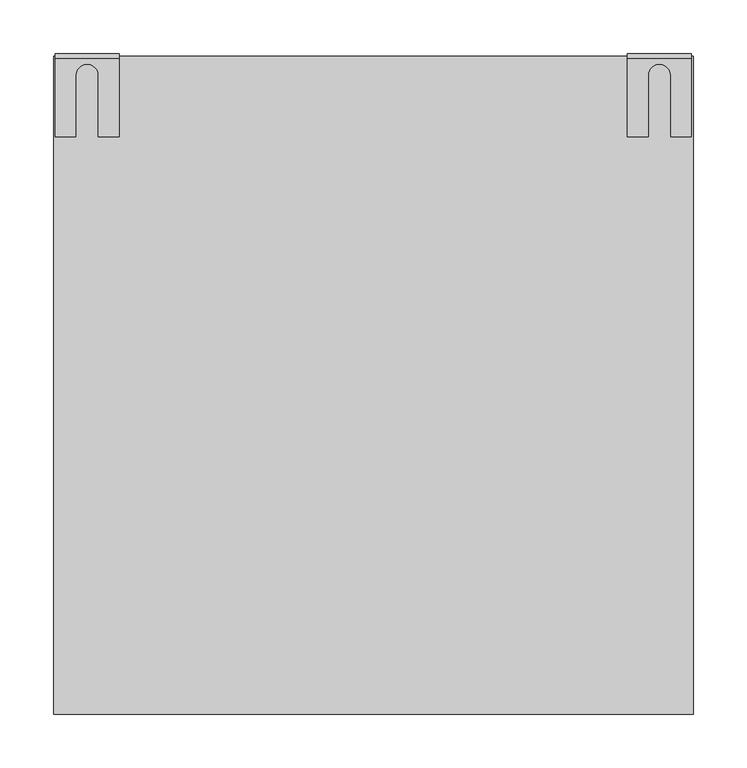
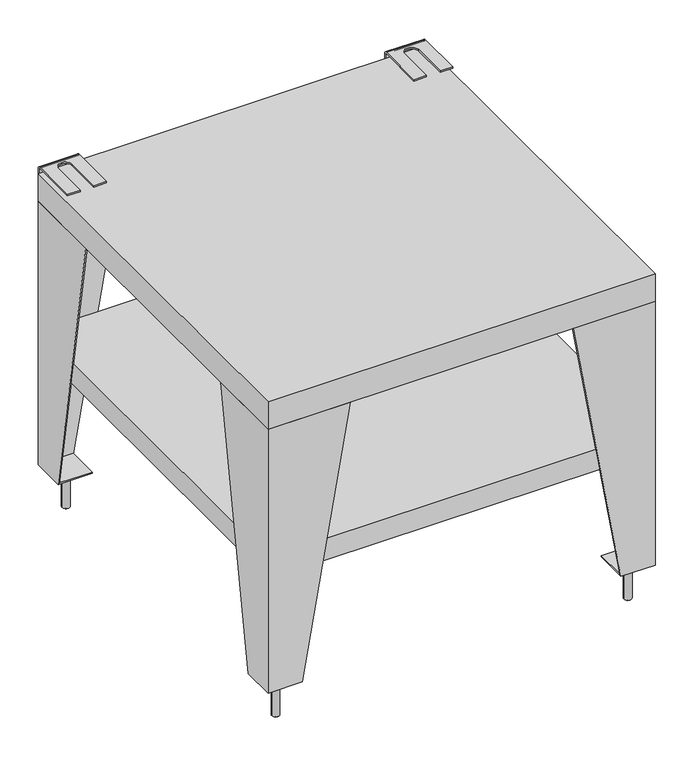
"""IFC4 building model written with IfcOpenShell, lengths in millimetres: proxy geometry, 11318820_D_APCL007_OB : 59590012_D_11318820_APCL007_OB."""

import ifcopenshell
import ifcopenshell.guid

model = None  # the IFC model being written
_history = None  # IfcOwnerHistory: only IFC2X3 demands one
_inside = {}  # id of a spatial element -> (the spatial element, [elements in it])
_under = {}  # id of a project, library or spatial element -> (it, [spatial elements below it])
_declared = {}  # id of a project -> (the project, [libraries it declares])
_typed = {}  # id of a type object -> (the type object, [elements of that type])
_made_of = {}  # id of a material, layer set ... -> (it, [elements and type objects made of it])


def new_model(schema):
    """Start an empty IFC model of exactly this schema.

    Asked for "IFC4X3", IfcOpenShell would pick the latest addendum, in which some entities
    have other attributes; the version numbers below select the first issue.
    IFC2X3 requires an IfcOwnerHistory on every rooted entity: one is made here for all.
    """
    global model, _history
    if schema == "IFC4X3":
        model = ifcopenshell.file(schema_version=(4, 3, 0, 0))
    else:
        model = ifcopenshell.file(schema=schema)
    _inside.clear()
    _under.clear()
    _declared.clear()
    _typed.clear()
    _made_of.clear()
    _history = None
    if model.schema == "IFC2X3":
        org = make("IfcOrganization", Name="unknown")
        user = make(
            "IfcPersonAndOrganization",
            ThePerson=make("IfcPerson", FamilyName="unknown"),
            TheOrganization=org,
        )
        app = make(
            "IfcApplication",
            ApplicationDeveloper=org,
            Version="unknown",
            ApplicationFullName="unknown",
            ApplicationIdentifier="unknown",
        )
        _history = make(
            "IfcOwnerHistory",
            OwningUser=user,
            OwningApplication=app,
            ChangeAction="ADDED",
            CreationDate=0,
        )
    return model


def make(cls, **values):
    """One entity of the class cls with the attributes given. An attribute that is None is left unset."""
    return model.create_entity(
        cls, **{name: value for name, value in values.items() if value is not None}
    )


def rooted(cls, **values):
    """An entity with a GlobalId (a new one), such as an element, a storey or a relation."""
    return make(cls, GlobalId=ifcopenshell.guid.new(), OwnerHistory=_history, **values)


def si_unit(unit_type, name, prefix=None):
    """IfcSIUnit, for example si_unit("LENGTHUNIT", "METRE", prefix="MILLI")."""
    return make("IfcSIUnit", UnitType=unit_type, Prefix=prefix, Name=name)


def assignment(units):
    """IfcUnitAssignment: the units of a project."""
    return None if units is None else make("IfcUnitAssignment", Units=units)


def point(xyz):
    """IfcCartesianPoint."""
    return None if xyz is None else make("IfcCartesianPoint", Coordinates=xyz)


def direction(xyz):
    """IfcDirection."""
    return None if xyz is None else make("IfcDirection", DirectionRatios=xyz)


def frame(location, z_axis=None, x_axis=None):
    """IfcAxis2Placement3D, a coordinate frame: its origin and axes. An axis left out is left unset."""
    return make(
        "IfcAxis2Placement3D",
        Location=point(location),
        Axis=direction(z_axis),
        RefDirection=direction(x_axis),
    )


def frame_2d(location, x_axis=None):
    """IfcAxis2Placement2D, a coordinate frame in the plane: its origin and x axis."""
    return make(
        "IfcAxis2Placement2D", Location=point(location), RefDirection=direction(x_axis)
    )


def origin():
    """The frame at (0, 0, 0) with its axes left unset."""
    return frame((0.0, 0.0, 0.0))


def origin_with_axes():
    """The frame at (0, 0, 0) with the z axis (0, 0, 1) and the x axis (1, 0, 0) written out."""
    return frame((0.0, 0.0, 0.0), z_axis=(0.0, 0.0, 1.0), x_axis=(1.0, 0.0, 0.0))


def place(relative_to, where):
    """IfcLocalPlacement: puts the frame where relative to a parent placement (None: the world)."""
    return make(
        "IfcLocalPlacement", PlacementRelTo=relative_to, RelativePlacement=where
    )


def context(
    kind, dimensions, precision=None, world=None, true_north=None, identifier=None
):
    """IfcGeometricRepresentationContext, for example the 3D "Model" context."""
    return make(
        "IfcGeometricRepresentationContext",
        ContextIdentifier=identifier,
        ContextType=kind,
        CoordinateSpaceDimension=dimensions,
        Precision=precision,
        WorldCoordinateSystem=world,
        TrueNorth=true_north,
    )


def project(units=None, contexts=None):
    """IfcProject with its units and contexts."""
    return rooted(
        "IfcProject",
        Name="project",
        RepresentationContexts=contexts,
        UnitsInContext=assignment(units),
    )


def spatial(cls, under=None, at=None, **own):
    """A site, building, storey or space (cls), placed at a placement, below another one or the project."""
    s = rooted(cls, ObjectPlacement=at, **own)
    if under is not None:
        _under.setdefault(under.id(), (under, []))[1].append(s)
    return s


def polyline(points):
    """IfcPolyline through the points."""
    return make("IfcPolyline", Points=[point(p) for p in points])


def circle_curve(where, radius):
    """IfcCircle in the frame where."""
    return make("IfcCircle", Position=where, Radius=radius)


def trimmed(basis, trim1, trim2, sense, master):
    """IfcTrimmedCurve: the piece of a basis curve between two trims."""
    return make(
        "IfcTrimmedCurve",
        BasisCurve=basis,
        Trim1=trim1,
        Trim2=trim2,
        SenseAgreement=sense,
        MasterRepresentation=master,
    )


def segment(curve, same_sense, transition):
    """IfcCompositeCurveSegment."""
    return make(
        "IfcCompositeCurveSegment",
        Transition=transition,
        SameSense=same_sense,
        ParentCurve=curve,
    )


def composite_curve(segments, self_intersect=None):
    """IfcCompositeCurve: segments joined end to end."""
    return make("IfcCompositeCurve", Segments=segments, SelfIntersect=self_intersect)


def outline(outer, holes=None, kind="AREA"):
    """IfcArbitraryClosedProfileDef: a profile drawn as a closed curve; with holes, ...WithVoids."""
    if holes is None:
        return make("IfcArbitraryClosedProfileDef", ProfileType=kind, OuterCurve=outer)
    return make(
        "IfcArbitraryProfileDefWithVoids",
        ProfileType=kind,
        OuterCurve=outer,
        InnerCurves=holes,
    )


def extrude(swept, where, along, depth):
    """IfcExtrudedAreaSolid: the profile swept, set in the frame where, extruded along a direction by depth."""
    return make(
        "IfcExtrudedAreaSolid",
        SweptArea=swept,
        Position=where,
        ExtrudedDirection=direction(along),
        Depth=depth,
    )


def faces_of(points, faces, orient=None, outer=None):
    """IfcFace entities. A face is a list of loops; a loop is a list of indices into points, from 0.

    orient and outer hold one flag for each loop. By default every Orientation is true, the
    first loop of a face is its IfcFaceOuterBound and the others are IfcFaceBound.
    """
    made = []
    for i, loops in enumerate(faces):
        bounds = []
        for j, loop in enumerate(loops):
            is_outer = j == 0 if outer is None else outer[i][j]
            bounds.append(
                make(
                    "IfcFaceOuterBound" if is_outer else "IfcFaceBound",
                    Bound=make("IfcPolyLoop", Polygon=[points[k] for k in loop]),
                    Orientation=True if orient is None else orient[i][j],
                )
            )
        made.append(make("IfcFace", Bounds=bounds))
    return made


def faceted_brep(points, faces, orient=None, outer=None, voids=None):
    """IfcFacetedBrep: a solid bounded by flat faces; with voids (closed shells), ...WithVoids."""
    shared = [point(p) for p in points]
    hull = make("IfcClosedShell", CfsFaces=faces_of(shared, faces, orient, outer))
    if voids is None:
        return make("IfcFacetedBrep", Outer=hull)
    return make(
        "IfcFacetedBrepWithVoids",
        Outer=hull,
        Voids=[
            make(cls, CfsFaces=faces_of(shared, fs, o, b)) for cls, fs, o, b in voids
        ],
    )


def shape(context_of_items, identifier, shape_type, items):
    """IfcShapeRepresentation: the items that make up one representation, for example the "Body"."""
    return make(
        "IfcShapeRepresentation",
        ContextOfItems=context_of_items,
        RepresentationIdentifier=identifier,
        RepresentationType=shape_type,
        Items=items,
    )


def source(mapping_origin, context_of_items, identifier, shape_type, items):
    """IfcRepresentationMap: a shape defined once, which mapped items show again and again."""
    return make(
        "IfcRepresentationMap",
        MappingOrigin=mapping_origin,
        MappedRepresentation=shape(context_of_items, identifier, shape_type, items),
    )


def transform(
    local_origin,
    x_axis=None,
    y_axis=None,
    z_axis=None,
    scale=None,
    scale2=None,
    scale3=None,
    uniform=True,
):
    """IfcCartesianTransformationOperator3D, or its non-uniform kind. x_axis, y_axis, z_axis: its Axis1, 2, 3."""
    if uniform:
        return make(
            "IfcCartesianTransformationOperator3D",
            Axis1=direction(x_axis),
            Axis2=direction(y_axis),
            LocalOrigin=point(local_origin),
            Scale=scale,
            Axis3=direction(z_axis),
        )
    return make(
        "IfcCartesianTransformationOperator3DnonUniform",
        Axis1=direction(x_axis),
        Axis2=direction(y_axis),
        LocalOrigin=point(local_origin),
        Scale=scale,
        Axis3=direction(z_axis),
        Scale2=scale2,
        Scale3=scale3,
    )


def mapped(mapping_source, mapping_target):
    """IfcMappedItem: shows the shape of a source again, moved by a transform."""
    return make(
        "IfcMappedItem", MappingSource=mapping_source, MappingTarget=mapping_target
    )


def made_of(thing, what):
    """Note that an element or type object is made of a material, layer set ...; save() writes the relation."""
    if what is not None:
        _made_of.setdefault(what.id(), (what, []))[1].append(thing)
    return thing


def element(
    cls,
    number,
    at=None,
    inside=None,
    cuts=None,
    type_object=None,
    material=None,
    context=None,
    identifier="Body",
    shape_type=None,
    held_by="IfcProductDefinitionShape",
    body=None,
    shapes=None,
    **own,
):
    """One element of the class cls, such as IfcWall. Its Tag is "e" and its number.

    at: its placement. inside: the storey or other place that contains it. cuts: it is an
    opening in that element (IfcRelVoidsElement). A single representation is given by context,
    identifier, shape_type and body (its items); several are given by shapes. held_by: the class
    of the entity that holds the representations. save() writes the other relations.
    """
    e = rooted(cls, Tag="e%d" % number, ObjectPlacement=at, **own)
    if body is not None:
        shapes = [shape(context, identifier, shape_type, body)]
    if shapes is not None:
        e.Representation = make(held_by, Representations=shapes)
    if inside is not None:
        _inside.setdefault(inside.id(), (inside, []))[1].append(e)
    if cuts is not None:
        rooted(
            "IfcRelVoidsElement", RelatingBuildingElement=cuts, RelatedOpeningElement=e
        )
    if type_object is not None:
        _typed.setdefault(type_object.id(), (type_object, []))[1].append(e)
    return made_of(e, material)


def aggregate(whole, parts):
    """IfcRelAggregates: a whole, such as a stair, and the parts it consists of."""
    return rooted("IfcRelAggregates", RelatingObject=whole, RelatedObjects=parts)


def save(model, path):
    """Write the relations noted so far, then the file.

    IfcRelAggregates (storeys below a building ...), IfcRelContainedInSpatialStructure (elements
    in a storey), IfcRelDefinesByType, IfcRelAssociatesMaterial and IfcRelDeclares: one each for
    every whole, place, type object, material and project.
    """
    for whole, parts in _under.values():
        aggregate(whole, parts)
    for where, things in _inside.values():
        rooted(
            "IfcRelContainedInSpatialStructure",
            RelatedElements=things,
            RelatingStructure=where,
        )
    for kind, things in _typed.values():
        rooted("IfcRelDefinesByType", RelatedObjects=things, RelatingType=kind)
    for what, things in _made_of.values():
        rooted("IfcRelAssociatesMaterial", RelatedObjects=things, RelatingMaterial=what)
    for by, libraries in _declared.values():
        rooted("IfcRelDeclares", RelatingContext=by, RelatedDefinitions=libraries)
    model.write(path)


def plane_surface(at):
    """IfcPlane: the flat surface through the origin of the frame at, square to its z axis."""
    return make("IfcPlane", Position=at)


def cylinder_surface(at, radius):
    """IfcCylindricalSurface: all points at the distance radius from the z axis of the frame at."""
    return make("IfcCylindricalSurface", Position=at, Radius=radius)


def revolved_surface(curve, axis_point, axis_direction):
    """IfcSurfaceOfRevolution: the curve turned about the line through axis_point along axis_direction."""
    return make(
        "IfcSurfaceOfRevolution",
        SweptCurve=make("IfcArbitraryOpenProfileDef", ProfileType="CURVE", Curve=curve),
        AxisPosition=make("IfcAxis1Placement", Location=point(axis_point), Axis=direction(axis_direction)),
    )


def advanced_brep(points, edges, surfaces, faces):
    """IfcAdvancedBrep: a solid bounded by faces that lie on surfaces and meet in shared edges.

    An edge is (start, end): straight between two places in points (the first is 0);
    or (start, end, curve); or (start, end, curve, False) where it runs against its curve.
    A face is (place in surfaces, loops), or (place, loops, False) where it looks against
    its surface's normal. A loop lists edges by number (the first is 1), with a minus sign
    where the edge is run from its end to its start. The first loop is the outer one.
    """
    corners = [point(p) for p in points]
    vertices = [make("IfcVertexPoint", VertexGeometry=c) for c in corners]
    made = []
    for start, end, *more in edges:
        made.append(
            make(
                "IfcEdgeCurve",
                EdgeStart=vertices[start],
                EdgeEnd=vertices[end],
                EdgeGeometry=more[0] if more else make("IfcPolyline", Points=[corners[start], corners[end]]),
                SameSense=more[1] if len(more) > 1 else True,
            )
        )
    hull = []
    for where, loops, *sense in faces:
        bounds = []
        for j, loop in enumerate(loops):
            ring = [make("IfcOrientedEdge", EdgeElement=made[abs(k) - 1], Orientation=k > 0) for k in loop]
            bounds.append(
                make(
                    "IfcFaceOuterBound" if j == 0 else "IfcFaceBound",
                    Bound=make("IfcEdgeLoop", EdgeList=ring),
                    Orientation=True,
                )
            )
        hull.append(make("IfcAdvancedFace", Bounds=bounds, FaceSurface=surfaces[where], SameSense=sense[0] if sense else True))
    return make("IfcAdvancedBrep", Outer=make("IfcClosedShell", CfsFaces=hull))


def specialty_equipment_88715327(model_context):
    return source(origin(), model_context, "Body", "SolidModel", [
        extrude(outline(composite_curve([segment(polyline([(-275.1685084, 593.0472117), (-271.3164745, 593.0472117), (-269.4477356, 592.7512326)]), True, "CONTINUOUS"), segment(trimmed(circle_curve(frame_2d((-270.4186229, 590.5839462)), 2.3748163), [point((-269.4477356, 592.7512326))], [point((-269.2989184, 588.4896648))], False, "CARTESIAN"), True, "CONTINUOUS"), segment(trimmed(circle_curve(frame_2d((-270.4582963, 585.9114122)), 2.8269318), [point((-269.2989184, 588.4896648))], [point((-269.7642408, 583.1710052))], False, "CARTESIAN"), True, "CONTINUOUS"), segment(polyline([(-269.7642408, 583.1710052), (-271.2676416, 583.0), (-275.1685084, 583.0), (-275.1685084, 593.0472117)]), True, "CONTINUOUS")], self_intersect=False), holes=[composite_curve([segment(polyline([(-273.913848, 591.7943432), (-273.913848, 588.9670675), (-271.6145851, 588.9670675), (-270.2782884, 589.0839783)]), True, "CONTINUOUS"), segment(trimmed(circle_curve(frame_2d((-270.5352206, 590.3816276)), 1.3228409), [point((-270.2782884, 589.0839783))], [point((-270.1776634, 591.6552291))], True, "CARTESIAN"), True, "CONTINUOUS"), segment(polyline([(-270.1776634, 591.6552291), (-271.7677441, 591.7943432), (-273.913848, 591.7943432)]), True, "CONTINUOUS")], self_intersect=False), composite_curve([segment(polyline([(-271.4580113, 587.7090207), (-273.9143742, 587.7090207), (-273.9143742, 584.2568535), (-271.3578582, 584.2568535), (-270.4244031, 584.3057738)]), True, "CONTINUOUS"), segment(trimmed(circle_curve(frame_2d((-270.5121799, 585.980655)), 1.6771797), [point((-270.4244031, 584.3057738))], [point((-269.9111324, 587.5464372))], True, "CARTESIAN"), True, "CONTINUOUS"), segment(polyline([(-269.9111324, 587.5464372), (-271.4580113, 587.7090207)]), True, "CONTINUOUS")], self_intersect=False)]), frame((0.0, 0.0, -61.0), z_axis=(0.0, 0.0, 1.0), x_axis=(1.0, 0.0, 0.0)), (0.0, 0.0, 1.0), 1.0),
        extrude(outline(composite_curve([segment(polyline([(272.1415369, 32.0472117), (274.0102757, 31.7512326)]), True, "CONTINUOUS"), segment(trimmed(circle_curve(frame_2d((273.0393885, 29.5839462)), 2.3748163), [point((274.0102757, 31.7512326))], [point((274.1590929, 27.4896648))], False, "CARTESIAN"), True, "CONTINUOUS"), segment(trimmed(circle_curve(frame_2d((272.999715, 24.9114122)), 2.8269318), [point((274.1590929, 27.4896648))], [point((273.6937705, 22.1710052))], False, "CARTESIAN"), True, "CONTINUOUS"), segment(polyline([(273.6937705, 22.1710052), (272.1903698, 22.0), (268.2895029, 22.0), (268.2895029, 32.0472117), (272.1415369, 32.0472117)]), True, "CONTINUOUS")], self_intersect=False), holes=[composite_curve([segment(polyline([(269.5441634, 27.9670675), (271.8434263, 27.9670675), (273.1797229, 28.0839783)]), True, "CONTINUOUS"), segment(trimmed(circle_curve(frame_2d((272.9227908, 29.3816276)), 1.3228409), [point((273.1797229, 28.0839783))], [point((273.2803479, 30.6552291))], True, "CARTESIAN"), True, "CONTINUOUS"), segment(polyline([(273.2803479, 30.6552291), (271.6902672, 30.7943432), (269.5441634, 30.7943432), (269.5441634, 27.9670675)]), True, "CONTINUOUS")], self_intersect=False), composite_curve([segment(polyline([(269.5436371, 26.7090207), (269.5436371, 23.2568535), (272.1001532, 23.2568535), (273.0336083, 23.3057738)]), True, "CONTINUOUS"), segment(trimmed(circle_curve(frame_2d((272.9458315, 24.980655)), 1.6771797), [point((273.0336083, 23.3057738))], [point((273.5468789, 26.5464372))], True, "CARTESIAN"), True, "CONTINUOUS"), segment(polyline([(273.5468789, 26.5464372), (272.0, 26.7090207), (269.5436371, 26.7090207)]), True, "CONTINUOUS")], self_intersect=False)]), frame((0.0, 0.0, -61.0), z_axis=(0.0, 0.0, 1.0), x_axis=(1.0, 0.0, 0.0)), (0.0, 0.0, 1.0), 1.0),
        extrude(outline(composite_curve([segment(polyline([(272.1415369, 593.0472117), (274.0102757, 592.7512326)]), True, "CONTINUOUS"), segment(trimmed(circle_curve(frame_2d((273.0393885, 590.5839462)), 2.3748163), [point((274.0102757, 592.7512326))], [point((274.1590929, 588.4896648))], False, "CARTESIAN"), True, "CONTINUOUS"), segment(trimmed(circle_curve(frame_2d((272.999715, 585.9114122)), 2.8269318), [point((274.1590929, 588.4896648))], [point((273.6937705, 583.1710052))], False, "CARTESIAN"), True, "CONTINUOUS"), segment(polyline([(273.6937705, 583.1710052), (272.1903698, 583.0), (268.2895029, 583.0), (268.2895029, 593.0472117), (272.1415369, 593.0472117)]), True, "CONTINUOUS")], self_intersect=False), holes=[composite_curve([segment(polyline([(273.2803479, 591.6552291), (271.6902672, 591.7943432), (269.5441634, 591.7943432), (269.5441634, 588.9670675), (271.8434263, 588.9670675), (273.1797229, 589.0839783)]), True, "CONTINUOUS"), segment(trimmed(circle_curve(frame_2d((272.9227908, 590.3816276)), 1.3228409), [point((273.1797229, 589.0839783))], [point((273.2803479, 591.6552291))], True, "CARTESIAN"), True, "CONTINUOUS")], self_intersect=False), composite_curve([segment(polyline([(272.0, 587.7090207), (269.5436371, 587.7090207), (269.5436371, 584.2568535), (272.1001532, 584.2568535), (273.0336083, 584.3057738)]), True, "CONTINUOUS"), segment(trimmed(circle_curve(frame_2d((272.9458315, 585.980655)), 1.6771797), [point((273.0336083, 584.3057738))], [point((273.5468789, 587.5464372))], True, "CARTESIAN"), True, "CONTINUOUS"), segment(polyline([(273.5468789, 587.5464372), (272.0, 587.7090207)]), True, "CONTINUOUS")], self_intersect=False)]), frame((0.0, 0.0, -61.0), z_axis=(0.0, 0.0, 1.0), x_axis=(1.0, 0.0, 0.0)), (0.0, 0.0, 1.0), 1.0),
        extrude(outline(composite_curve([segment(polyline([(-271.4419527, 32.0472117), (-269.5732138, 31.7512326)]), True, "CONTINUOUS"), segment(trimmed(circle_curve(frame_2d((-270.544101, 29.5839462)), 2.3748163), [point((-269.5732138, 31.7512326))], [point((-269.4243966, 27.4896648))], False, "CARTESIAN"), True, "CONTINUOUS"), segment(trimmed(circle_curve(frame_2d((-270.5837745, 24.9114122)), 2.8269318), [point((-269.4243966, 27.4896648))], [point((-269.889719, 22.1710052))], False, "CARTESIAN"), True, "CONTINUOUS"), segment(polyline([(-269.889719, 22.1710052), (-271.3931197, 22.0), (-275.2939866, 22.0), (-275.2939866, 32.0472117), (-271.4419527, 32.0472117)]), True, "CONTINUOUS")], self_intersect=False), holes=[composite_curve([segment(polyline([(-274.0393261, 30.7943432), (-274.0393261, 27.9670675), (-271.7400632, 27.9670675), (-270.4037666, 28.0839783)]), True, "CONTINUOUS"), segment(trimmed(circle_curve(frame_2d((-270.6606988, 29.3816276)), 1.3228409), [point((-270.4037666, 28.0839783))], [point((-270.3031416, 30.6552291))], True, "CARTESIAN"), True, "CONTINUOUS"), segment(polyline([(-270.3031416, 30.6552291), (-271.8932223, 30.7943432), (-274.0393261, 30.7943432)]), True, "CONTINUOUS")], self_intersect=False), composite_curve([segment(polyline([(-274.0398524, 23.2568535), (-271.4833364, 23.2568535), (-270.5498812, 23.3057738)]), True, "CONTINUOUS"), segment(trimmed(circle_curve(frame_2d((-270.637658, 24.980655)), 1.6771797), [point((-270.5498812, 23.3057738))], [point((-270.0366106, 26.5464372))], True, "CARTESIAN"), True, "CONTINUOUS"), segment(polyline([(-270.0366106, 26.5464372), (-271.5834895, 26.7090207), (-274.0398524, 26.7090207), (-274.0398524, 23.2568535)]), True, "CONTINUOUS")], self_intersect=False)]), frame((0.0, 0.0, -61.0), z_axis=(0.0, 0.0, 1.0), x_axis=(1.0, 0.0, 0.0)), (0.0, 0.0, 1.0), 1.0),
        faceted_brep([(299.0, 615.0, 476.0), (-299.0, 615.0, 476.0), (-299.0, 0.0, 476.0), (299.0, 0.0, 476.0), (299.0, 615.0, 431.0), (299.0, 0.0, 431.0), (-299.0, 0.0, 431.0), (-299.0, 615.0, 431.0), (297.0, 613.0, 431.0), (-297.0, 613.0, 431.0), (-297.0, 2.0, 431.0), (297.0, 2.0, 431.0), (297.0, 613.0, 475.0), (297.0, 2.0, 475.0), (-297.0, 2.0, 475.0), (-297.0, 613.0, 475.0)], [[[0, 1, 2, 3]], [[4, 5, 6, 7], [8, 9, 10, 11]], [[1, 0, 4, 7]], [[2, 1, 7, 6]], [[3, 2, 6, 5]], [[0, 3, 5, 4]], [[12, 13, 14, 15]], [[12, 15, 9, 8]], [[15, 14, 10, 9]], [[14, 13, 11, 10]], [[13, 12, 8, 11]]]),
        advanced_brep(
        [(297.5, 612.5, 487.5), (297.5, 539.5, 487.5), (297.5, 539.5, 485.0), (297.5, 612.5, 485.0), (297.5, 615.0, 482.5), (297.5, 615.0, 405.0), (297.5, 617.5, 405.0), (297.5, 617.5, 482.5), (237.5, 612.5, 487.5), (237.5, 617.5, 482.5), (237.5, 617.5, 405.0), (237.5, 615.0, 405.0), (237.5, 615.0, 482.5), (237.5, 612.5, 485.0), (237.5, 539.5, 485.0), (237.5, 539.5, 487.5), (257.0, 539.5, 487.5), (257.0, 597.0, 487.5), (278.0, 597.0, 487.5), (278.0, 539.5, 487.5), (278.0, 539.5, 485.0), (257.0, 539.5, 485.0), (278.0, 597.0, 485.0), (257.0, 597.0, 485.0), (267.5, 615.0, 463.5), (267.5, 615.0, 456.5), (267.5, 615.0, 421.5), (267.5, 615.0, 414.5), (255.0, 615.0, 453.0), (280.0, 615.0, 453.0), (280.0, 615.0, 428.0), (255.0, 615.0, 428.0), (267.5, 617.5, 456.5), (267.5, 617.5, 463.5), (267.5, 617.5, 414.5), (267.5, 617.5, 421.5), (280.0, 617.5, 453.0), (255.0, 617.5, 453.0), (255.0, 617.5, 428.0), (280.0, 617.5, 428.0)],
        [
            (0, 1),
            (1, 2),
            (2, 3),
            (3, 4, circle_curve(frame((297.5, 612.5, 482.5), z_axis=(-1.0, 0.0, 0.0), x_axis=(0.0, 1.0, 0.0)), 2.5)),
            (4, 5),
            (5, 6),
            (6, 7),
            (7, 0, circle_curve(frame((297.5, 612.5, 482.5), z_axis=(1.0, 0.0, 0.0), x_axis=(0.0, 1.0, 0.0)), 5.0)),
            (8, 9, circle_curve(frame((237.5, 612.5, 482.5), z_axis=(-1.0, 0.0, 0.0), x_axis=(0.0, 1.0, 0.0)), 5.0)),
            (9, 10),
            (10, 11),
            (11, 12),
            (12, 13, circle_curve(frame((237.5, 612.5, 482.5), z_axis=(1.0, 0.0, 0.0), x_axis=(0.0, 1.0, 0.0)), 2.5)),
            (13, 14),
            (14, 15),
            (15, 8),
            (0, 8),
            (15, 16),
            (16, 17),
            (17, 18, circle_curve(frame((267.5, 597.0, 487.5), z_axis=(0.0, 0.0, -1.0), x_axis=(0.0, 1.0, 0.0)), 10.5)),
            (18, 19),
            (19, 1),
            (19, 20),
            (20, 2),
            (14, 21),
            (21, 16),
            (20, 22),
            (22, 23, circle_curve(frame((267.5, 597.0, 485.0), z_axis=(0.0, 0.0, 1.0), x_axis=(0.0, 1.0, 0.0)), 10.5)),
            (23, 21),
            (13, 3),
            (4, 12),
            (11, 5),
            (24, 25, circle_curve(frame((267.5, 615.0, 460.0), z_axis=(0.0, 1.0, 0.0), x_axis=(0.0, 0.0, -1.0)), 3.5)),
            (25, 24, circle_curve(frame((267.5, 615.0, 460.0), z_axis=(0.0, 1.0, 0.0), x_axis=(0.0, 0.0, -1.0)), 3.5)),
            (26, 27, circle_curve(frame((267.5, 615.0, 418.0), z_axis=(0.0, 1.0, 0.0), x_axis=(0.0, 0.0, -1.0)), 3.5)),
            (27, 26, circle_curve(frame((267.5, 615.0, 418.0), z_axis=(0.0, 1.0, 0.0), x_axis=(0.0, 0.0, -1.0)), 3.5)),
            (28, 29),
            (29, 30),
            (30, 31),
            (31, 28),
            (10, 6),
            (9, 7),
            (32, 33, circle_curve(frame((267.5, 617.5, 460.0), z_axis=(0.0, -1.0, 0.0), x_axis=(0.0, 0.0, -1.0)), 3.5)),
            (33, 32, circle_curve(frame((267.5, 617.5, 460.0), z_axis=(0.0, -1.0, 0.0), x_axis=(0.0, 0.0, -1.0)), 3.5)),
            (34, 35, circle_curve(frame((267.5, 617.5, 418.0), z_axis=(0.0, -1.0, 0.0), x_axis=(0.0, 0.0, -1.0)), 3.5)),
            (35, 34, circle_curve(frame((267.5, 617.5, 418.0), z_axis=(0.0, -1.0, 0.0), x_axis=(0.0, 0.0, -1.0)), 3.5)),
            (36, 37),
            (37, 38),
            (38, 39),
            (39, 36),
            (18, 22),
            (17, 23),
            (24, 33),
            (32, 25),
            (26, 35),
            (34, 27),
            (28, 37),
            (36, 29),
            (39, 30),
            (38, 31),
        ],
        [
            plane_surface(frame((297.5, 539.5, 487.5), z_axis=(1.0, 0.0, 0.0), x_axis=(0.0, -1.0, 0.0))),
            plane_surface(frame((237.5, 539.5, 487.5), z_axis=(-1.0, 0.0, 0.0), x_axis=(0.0, 1.0, 0.0))),
            plane_surface(frame((297.5, 612.5, 487.5), z_axis=(0.0, 0.0, 1.0), x_axis=(-1.0, 0.0, 0.0))),
            plane_surface(frame((297.5, 539.5, 487.5), z_axis=(0.0, -1.0, 0.0), x_axis=(-1.0, 0.0, 0.0))),
            plane_surface(frame((297.5, 539.5, 485.0), z_axis=(0.0, 0.0, -1.0), x_axis=(-1.0, 0.0, 0.0))),
            plane_surface(frame((297.5, 615.0, 482.5), z_axis=(0.0, -1.0, 0.0), x_axis=(-1.0, 0.0, 0.0))),
            plane_surface(frame((297.5, 615.0, 405.0), z_axis=(0.0, 0.0, -1.0), x_axis=(-1.0, 0.0, 0.0))),
            plane_surface(frame((297.5, 617.5, 405.0), z_axis=(0.0, 1.0, 0.0), x_axis=(-1.0, 0.0, 0.0))),
            plane_surface(frame((278.0, 539.5, 487.5), z_axis=(-1.0, 0.0, 0.0), x_axis=(0.0, 0.0, -1.0))),
            revolved_surface(polyline([(267.5, 607.5, 487.5), (267.5, 607.5, 485.0)]), (267.5, 597.0, 476.0), (0.0, 0.0, 1.0)),
            plane_surface(frame((257.0, 597.0, 487.5), z_axis=(1.0, 0.0, 0.0), x_axis=(0.0, 0.0, -1.0))),
            revolved_surface(polyline([(267.5, 617.5, 456.5), (267.5, 615.0, 456.5)]), (267.5, 609.795944, 460.0), (0.0, 1.0, 0.0)),
            revolved_surface(polyline([(267.5, 617.5, 414.5), (267.5, 615.0, 414.5)]), (267.5, 617.5, 418.0), (0.0, 1.0, 0.0)),
            plane_surface(frame((255.0, 617.5, 453.0), z_axis=(0.0, 0.0, -1.0), x_axis=(0.0, -1.0, 0.0))),
            plane_surface(frame((280.0, 617.5, 453.0), z_axis=(-1.0, 0.0, 0.0), x_axis=(0.0, -1.0, 0.0))),
            plane_surface(frame((280.0, 617.5, 428.0), z_axis=(0.0, 0.0, 1.0), x_axis=(0.0, -1.0, 0.0))),
            plane_surface(frame((255.0, 617.5, 428.0), z_axis=(1.0, 0.0, 0.0), x_axis=(0.0, -1.0, 0.0))),
            revolved_surface(polyline([(237.5, 615.0, 482.5), (297.5, 615.0, 482.5)]), (237.5, 612.5, 482.5), (-1.0, 0.0, 0.0)),
            cylinder_surface(frame((237.5, 612.5, 482.5), z_axis=(1.0, 0.0, 0.0), x_axis=(0.0, 1.0, 0.0)), 5.0),
        ],
        [
            (0, [[1, 2, 3, 4, 5, 6, 7, 8]]),
            (1, [[9, 10, 11, 12, 13, 14, 15, 16]]),
            (2, [[-1, 17, -16, 18, 19, 20, 21, 22]]),
            (3, [[-2, -22, 23, 24]]),
            (3, [[-15, 25, 26, -18]]),
            (4, [[-3, -24, 27, 28, 29, -25, -14, 30]]),
            (5, [[-5, 31, -12, 32], [33, 34], [35, 36], [37, 38, 39, 40]]),
            (6, [[-6, -32, -11, 41]]),
            (7, [[-7, -41, -10, 42], [43, 44], [45, 46], [47, 48, 49, 50]]),
            (8, [[51, -27, -23, -21]]),
            (9, [[-51, -20, 52, -28]]),
            (10, [[-52, -19, -26, -29]]),
            (11, [[53, -43, 54, -33]]),
            (11, [[-53, -34, -54, -44]]),
            (12, [[55, -45, 56, -35]]),
            (12, [[-55, -36, -56, -46]]),
            (13, [[57, -47, 58, -37]]),
            (14, [[-58, -50, 59, -38]]),
            (15, [[-59, -49, 60, -39]]),
            (16, [[-57, -40, -60, -48]]),
            (17, [[-4, -30, -13, -31]]),
            (18, [[-8, -42, -9, -17]]),
        ],
    ),
        advanced_brep(
        [(-237.5, 617.5, 482.5), (-237.5, 612.5, 487.5), (-237.5, 539.5, 487.5), (-237.5, 539.5, 485.0), (-237.5, 612.5, 485.0), (-237.5, 615.0, 482.5), (-237.5, 615.0, 405.0), (-237.5, 617.5, 405.0), (-297.5, 617.5, 482.5), (-297.5, 617.5, 405.0), (-297.5, 615.0, 405.0), (-297.5, 615.0, 482.5), (-297.5, 612.5, 485.0), (-297.5, 539.5, 485.0), (-297.5, 539.5, 487.5), (-297.5, 612.5, 487.5), (-278.0, 539.5, 487.5), (-278.0, 597.0, 487.5), (-267.5, 607.5, 487.5), (-257.0, 597.0, 487.5), (-257.0, 539.5, 487.5), (-257.0, 539.5, 485.0), (-278.0, 539.5, 485.0), (-257.0, 597.0, 485.0), (-267.5, 607.5, 485.0), (-278.0, 597.0, 485.0), (-255.0, 615.0, 453.0), (-255.0, 615.0, 428.0), (-280.0, 615.0, 428.0), (-280.0, 615.0, 453.0), (-267.5, 615.0, 421.5), (-267.5, 615.0, 414.5), (-267.5, 615.0, 463.5), (-267.5, 615.0, 456.5), (-255.0, 617.5, 428.0), (-255.0, 617.5, 453.0), (-280.0, 617.5, 453.0), (-280.0, 617.5, 428.0), (-267.5, 617.5, 414.5), (-267.5, 617.5, 421.5), (-267.5, 617.5, 456.5), (-267.5, 617.5, 463.5)],
        [
            (0, 1, circle_curve(frame((-237.5, 612.5, 482.5), z_axis=(1.0, 0.0, 0.0), x_axis=(0.0, 1.0, 0.0)), 5.0)),
            (1, 2),
            (2, 3),
            (3, 4),
            (4, 5, circle_curve(frame((-237.5, 612.5, 482.5), z_axis=(-1.0, 0.0, 0.0), x_axis=(0.0, 1.0, 0.0)), 2.5)),
            (5, 6),
            (6, 7),
            (7, 0),
            (8, 9),
            (9, 10),
            (10, 11),
            (11, 12, circle_curve(frame((-297.5, 612.5, 482.5), z_axis=(1.0, 0.0, 0.0), x_axis=(0.0, 1.0, 0.0)), 2.5)),
            (12, 13),
            (13, 14),
            (14, 15),
            (15, 8, circle_curve(frame((-297.5, 612.5, 482.5), z_axis=(-1.0, 0.0, 0.0), x_axis=(0.0, 1.0, 0.0)), 5.0)),
            (1, 15),
            (14, 16),
            (16, 17),
            (17, 18, circle_curve(frame((-267.5, 597.0, 487.5), z_axis=(0.0, 0.0, -1.0), x_axis=(0.0, -1.0, 0.0)), 10.5)),
            (18, 19, circle_curve(frame((-267.5, 597.0, 487.5), z_axis=(0.0, 0.0, -1.0), x_axis=(0.0, -1.0, 0.0)), 10.5)),
            (19, 20),
            (20, 2),
            (20, 21),
            (21, 3),
            (13, 22),
            (22, 16),
            (21, 23),
            (23, 24, circle_curve(frame((-267.5, 597.0, 485.0), z_axis=(0.0, 0.0, 1.0), x_axis=(0.0, -1.0, 0.0)), 10.5)),
            (24, 25, circle_curve(frame((-267.5, 597.0, 485.0), z_axis=(0.0, 0.0, 1.0), x_axis=(0.0, -1.0, 0.0)), 10.5)),
            (25, 22),
            (12, 4),
            (5, 11),
            (10, 6),
            (26, 27),
            (27, 28),
            (28, 29),
            (29, 26),
            (30, 31, circle_curve(frame((-267.5, 615.0, 418.0), z_axis=(0.0, 1.0, 0.0), x_axis=(0.0, 0.0, -1.0)), 3.5)),
            (31, 30, circle_curve(frame((-267.5, 615.0, 418.0), z_axis=(0.0, 1.0, 0.0), x_axis=(0.0, 0.0, -1.0)), 3.5)),
            (32, 33, circle_curve(frame((-267.5, 615.0, 460.0), z_axis=(0.0, 1.0, 0.0), x_axis=(0.0, 0.0, -1.0)), 3.5)),
            (33, 32, circle_curve(frame((-267.5, 615.0, 460.0), z_axis=(0.0, 1.0, 0.0), x_axis=(0.0, 0.0, -1.0)), 3.5)),
            (9, 7),
            (8, 0),
            (34, 35),
            (35, 36),
            (36, 37),
            (37, 34),
            (38, 39, circle_curve(frame((-267.5, 617.5, 418.0), z_axis=(0.0, -1.0, 0.0), x_axis=(0.0, 0.0, -1.0)), 3.5)),
            (39, 38, circle_curve(frame((-267.5, 617.5, 418.0), z_axis=(0.0, -1.0, 0.0), x_axis=(0.0, 0.0, -1.0)), 3.5)),
            (40, 41, circle_curve(frame((-267.5, 617.5, 460.0), z_axis=(0.0, -1.0, 0.0), x_axis=(0.0, 0.0, -1.0)), 3.5)),
            (41, 40, circle_curve(frame((-267.5, 617.5, 460.0), z_axis=(0.0, -1.0, 0.0), x_axis=(0.0, 0.0, -1.0)), 3.5)),
            (24, 18),
            (17, 25),
            (19, 23),
            (26, 35),
            (34, 27),
            (37, 28),
            (36, 29),
            (30, 39),
            (38, 31),
            (32, 41),
            (40, 33),
        ],
        [
            plane_surface(frame((-237.5, 617.5, 482.5), z_axis=(1.0, 0.0, 0.0), x_axis=(0.0, 0.0, 1.0))),
            plane_surface(frame((-297.5, 617.5, 482.5), z_axis=(-1.0, 0.0, 0.0), x_axis=(0.0, 0.0, -1.0))),
            plane_surface(frame((-237.5, 612.5, 487.5), z_axis=(0.0, 0.0, 1.0), x_axis=(-1.0, 0.0, 0.0))),
            plane_surface(frame((-237.5, 539.5, 487.5), z_axis=(0.0, -1.0, 0.0), x_axis=(-1.0, 0.0, 0.0))),
            plane_surface(frame((-237.5, 539.5, 485.0), z_axis=(0.0, 0.0, -1.0), x_axis=(-1.0, 0.0, 0.0))),
            plane_surface(frame((-237.5, 615.0, 482.5), z_axis=(0.0, -1.0, 0.0), x_axis=(-1.0, 0.0, 0.0))),
            plane_surface(frame((-237.5, 615.0, 405.0), z_axis=(0.0, 0.0, -1.0), x_axis=(-1.0, 0.0, 0.0))),
            plane_surface(frame((-237.5, 617.5, 405.0), z_axis=(0.0, 1.0, 0.0), x_axis=(-1.0, 0.0, 0.0))),
            revolved_surface(polyline([(-267.5, 586.5, 487.5), (-267.5, 586.5, 485.0)]), (-267.5, 597.0, 476.0), (0.0, 0.0, 1.0)),
            plane_surface(frame((-278.0, 597.0, 487.5), z_axis=(1.0, 0.0, 0.0), x_axis=(0.0, 0.0, -1.0))),
            plane_surface(frame((-257.0, 539.5, 487.5), z_axis=(-1.0, 0.0, 0.0), x_axis=(0.0, 0.0, -1.0))),
            cylinder_surface(frame((-297.5, 612.5, 482.5), z_axis=(1.0, 0.0, 0.0), x_axis=(0.0, 1.0, 0.0)), 5.0),
            revolved_surface(polyline([(-297.5, 615.0, 482.5), (-237.5, 615.0, 482.5)]), (-297.5, 612.5, 482.5), (-1.0, 0.0, 0.0)),
            plane_surface(frame((-255.0, 617.5, 453.0), z_axis=(-1.0, 0.0, 0.0), x_axis=(0.0, -1.0, 0.0))),
            plane_surface(frame((-255.0, 617.5, 428.0), z_axis=(0.0, 0.0, 1.0), x_axis=(0.0, -1.0, 0.0))),
            plane_surface(frame((-280.0, 617.5, 428.0), z_axis=(1.0, 0.0, 0.0), x_axis=(0.0, -1.0, 0.0))),
            plane_surface(frame((-280.0, 617.5, 453.0), z_axis=(0.0, 0.0, -1.0), x_axis=(0.0, -1.0, 0.0))),
            revolved_surface(polyline([(-267.5, 617.5, 414.5), (-267.5, 615.0, 414.5)]), (-267.5, 617.5, 418.0), (0.0, 1.0, 0.0)),
            revolved_surface(polyline([(-267.5, 617.5, 456.5), (-267.5, 615.0, 456.5)]), (-267.5, 617.5, 460.0), (0.0, 1.0, 0.0)),
        ],
        [
            (0, [[1, 2, 3, 4, 5, 6, 7, 8]]),
            (1, [[9, 10, 11, 12, 13, 14, 15, 16]]),
            (2, [[-2, 17, -15, 18, 19, 20, 21, 22, 23]]),
            (3, [[-3, -23, 24, 25]]),
            (3, [[-14, 26, 27, -18]]),
            (4, [[-4, -25, 28, 29, 30, 31, -26, -13, 32]]),
            (5, [[-6, 33, -11, 34], [35, 36, 37, 38], [39, 40], [41, 42]]),
            (6, [[-7, -34, -10, 43]]),
            (7, [[-8, -43, -9, 44], [45, 46, 47, 48], [49, 50], [51, 52]]),
            (8, [[53, -20, 54, -30]]),
            (9, [[-54, -19, -27, -31]]),
            (10, [[55, -28, -24, -22]]),
            (8, [[-53, -29, -55, -21]]),
            (11, [[-1, -44, -16, -17]]),
            (12, [[-5, -32, -12, -33]]),
            (13, [[56, -45, 57, -35]]),
            (14, [[-57, -48, 58, -36]]),
            (15, [[-58, -47, 59, -37]]),
            (16, [[-56, -38, -59, -46]]),
            (17, [[60, -49, 61, -39]]),
            (17, [[-60, -40, -61, -50]]),
            (18, [[62, -51, 63, -41]]),
            (18, [[-62, -42, -63, -52]]),
        ],
    ),
        extrude(outline(composite_curve([segment(trimmed(circle_curve(frame_2d((-272.0, 588.0)), 6.0), [point((-266.0, 588.0))], [point((-278.0, 588.0))], False, "CARTESIAN"), True, "CONTINUOUS"), segment(trimmed(circle_curve(frame_2d((-272.0, 588.0)), 6.0), [point((-278.0, 588.0))], [point((-266.0, 588.0))], False, "CARTESIAN"), True, "CONTINUOUS")], self_intersect=False)), frame((0.0, 0.0, -60.0), z_axis=(0.0, 0.0, 1.0), x_axis=(1.0, 0.0, 0.0)), (0.0, 0.0, 1.0), 60.0),
        extrude(outline(composite_curve([segment(trimmed(circle_curve(frame_2d((-272.0, 27.0)), 6.0), [point((-266.0, 27.0))], [point((-278.0, 27.0))], False, "CARTESIAN"), True, "CONTINUOUS"), segment(trimmed(circle_curve(frame_2d((-272.0, 27.0)), 6.0), [point((-278.0, 27.0))], [point((-266.0, 27.0))], False, "CARTESIAN"), True, "CONTINUOUS")], self_intersect=False)), frame((0.0, 0.0, -60.0), z_axis=(0.0, 0.0, 1.0), x_axis=(1.0, 0.0, 0.0)), (0.0, 0.0, 1.0), 60.0),
        extrude(outline(composite_curve([segment(trimmed(circle_curve(frame_2d((272.0, 27.0)), 6.0), [point((278.0, 27.0))], [point((266.0, 27.0))], False, "CARTESIAN"), True, "CONTINUOUS"), segment(trimmed(circle_curve(frame_2d((272.0, 27.0)), 6.0), [point((266.0, 27.0))], [point((278.0, 27.0))], False, "CARTESIAN"), True, "CONTINUOUS")], self_intersect=False)), frame((0.0, 0.0, -60.0), z_axis=(0.0, 0.0, 1.0), x_axis=(1.0, 0.0, 0.0)), (0.0, 0.0, 1.0), 60.0),
        extrude(outline(composite_curve([segment(trimmed(circle_curve(frame_2d((272.0, 588.0)), 6.0), [point((278.0, 588.0))], [point((266.0, 588.0))], False, "CARTESIAN"), True, "CONTINUOUS"), segment(trimmed(circle_curve(frame_2d((272.0, 588.0)), 6.0), [point((266.0, 588.0))], [point((278.0, 588.0))], False, "CARTESIAN"), True, "CONTINUOUS")], self_intersect=False)), frame((0.0, 0.0, -60.0), z_axis=(0.0, 0.0, 1.0), x_axis=(1.0, 0.0, 0.0)), (0.0, 0.0, 1.0), 60.0),
        extrude(outline(polyline([(-246.0, 613.0), (-246.0, 562.0), (-297.0, 562.0), (-297.0, 613.0), (-246.0, 613.0)])), origin_with_axes(), (0.0, 0.0, 1.0), 2.0),
        extrude(outline(polyline([(297.0, 613.0), (297.0, 562.0), (246.0, 562.0), (246.0, 613.0), (297.0, 613.0)])), origin_with_axes(), (0.0, 0.0, 1.0), 2.0),
        extrude(outline(polyline([(-246.0, 53.0), (-246.0, 2.0), (-297.0, 2.0), (-297.0, 53.0), (-246.0, 53.0)])), origin_with_axes(), (0.0, 0.0, 1.0), 2.0),
        extrude(outline(polyline([(297.0, 53.0), (297.0, 2.0), (246.0, 2.0), (246.0, 53.0), (297.0, 53.0)])), origin_with_axes(), (0.0, 0.0, 1.0), 2.0),
        faceted_brep([(297.0, 613.0, 220.0), (-297.0, 613.0, 220.0), (-297.0, 2.0, 220.0), (297.0, 2.0, 220.0), (297.0, 613.0, 185.0), (297.0, 2.0, 185.0), (-297.0, 2.0, 185.0), (-297.0, 613.0, 185.0), (295.0, 611.0, 185.0), (-295.0, 611.0, 185.0), (-295.0, 4.0, 185.0), (295.0, 4.0, 185.0), (295.0, 611.0, 219.0), (295.0, 4.0, 219.0), (-295.0, 4.0, 219.0), (-295.0, 611.0, 219.0)], [[[0, 1, 2, 3]], [[4, 5, 6, 7], [8, 9, 10, 11]], [[1, 0, 4, 7]], [[2, 1, 7, 6]], [[3, 2, 6, 5]], [[0, 3, 5, 4]], [[12, 13, 14, 15]], [[12, 15, 9, 8]], [[15, 14, 10, 9]], [[14, 13, 11, 10]], [[13, 12, 8, 11]]]),
        faceted_brep([(172.0, 613.0, 431.0), (297.0, 613.0, 431.0), (297.0, 488.0, 431.0), (299.0, 488.0, 431.0), (299.0, 615.0, 431.0), (172.0, 615.0, 431.0), (246.0, 615.0, 0.0), (299.0, 615.0, 0.0), (299.0, 562.0, 0.0), (297.0, 562.0, 0.0), (297.0, 613.0, 0.0), (246.0, 613.0, 0.0)], [[[0, 1, 2, 3, 4, 5]], [[6, 7, 8, 9, 10, 11]], [[1, 0, 11, 10]], [[2, 1, 10, 9]], [[4, 3, 8, 7]], [[5, 4, 7, 6]], [[0, 5, 6, 11]], [[3, 2, 9, 8]]]),
        faceted_brep([(-297.0, 488.0, 431.0), (-297.0, 613.0, 431.0), (-172.0, 613.0, 431.0), (-172.0, 615.0, 431.0), (-299.0, 615.0, 431.0), (-299.0, 488.0, 431.0), (-299.0, 615.0, 0.0), (-246.0, 615.0, 0.0), (-246.0, 613.0, 0.0), (-297.0, 613.0, 0.0), (-297.0, 562.0, 0.0), (-299.0, 562.0, 0.0)], [[[0, 1, 2, 3, 4, 5]], [[6, 7, 8, 9, 10, 11]], [[1, 0, 10, 9]], [[2, 1, 9, 8]], [[4, 3, 7, 6]], [[5, 4, 6, 11]], [[3, 2, 8, 7]], [[0, 5, 11, 10]]]),
        faceted_brep([(297.0, 127.0, 431.0), (297.0, 2.0, 431.0), (172.0, 2.0, 431.0), (172.0, 0.0, 431.0), (299.0, 0.0, 431.0), (299.0, 127.0, 431.0), (299.0, 0.0, 0.0), (246.0, 0.0, 0.0), (246.0, 2.0, 0.0), (297.0, 2.0, 0.0), (297.0, 53.0, 0.0), (299.0, 53.0, 0.0)], [[[0, 1, 2, 3, 4, 5]], [[6, 7, 8, 9, 10, 11]], [[1, 0, 10, 9]], [[2, 1, 9, 8]], [[4, 3, 7, 6]], [[5, 4, 6, 11]], [[3, 2, 8, 7]], [[0, 5, 11, 10]]]),
        faceted_brep([(-172.0, 2.0, 431.0), (-297.0, 2.0, 431.0), (-297.0, 127.0, 431.0), (-299.0, 127.0, 431.0), (-299.0, 0.0, 431.0), (-172.0, 0.0, 431.0), (-246.0, 0.0, 0.0), (-299.0, 0.0, 0.0), (-299.0, 53.0, 0.0), (-297.0, 53.0, 0.0), (-297.0, 2.0, 0.0), (-246.0, 2.0, 0.0)], [[[0, 1, 2, 3, 4, 5]], [[6, 7, 8, 9, 10, 11]], [[1, 0, 11, 10]], [[2, 1, 10, 9]], [[4, 3, 8, 7]], [[5, 4, 7, 6]], [[0, 5, 6, 11]], [[3, 2, 9, 8]]]),
    ])


if __name__ == "__main__":
    model = new_model("IFC4")
    model_context = context("Model", 3, world=origin())
    ifc_project = project(units=[si_unit("LENGTHUNIT", "METRE", prefix="MILLI")], contexts=[model_context])
    site = spatial("IfcSite", under=ifc_project)
    building = spatial("IfcBuilding", under=site)
    placement = place(None, origin())
    specialty_equipment_shape = specialty_equipment_88715327(model_context)
    element("IfcBuildingElementProxy", 1, Name="11318820_D_APCL007_OB : 59590012_D_11318820_APCL007_OB", ObjectType="11318820_D_APCL007_OB : 59590012_D_11318820_APCL007_OB", at=placement, inside=building, context=model_context, shape_type="MappedRepresentation", body=[
        mapped(specialty_equipment_shape, transform((0.0, 0.0, 0.0), x_axis=(1.0, 0.0, 0.0), y_axis=(0.0, 1.0, 0.0), z_axis=(0.0, 0.0, 1.0))),
    ])
    save(model, "model.ifc")
